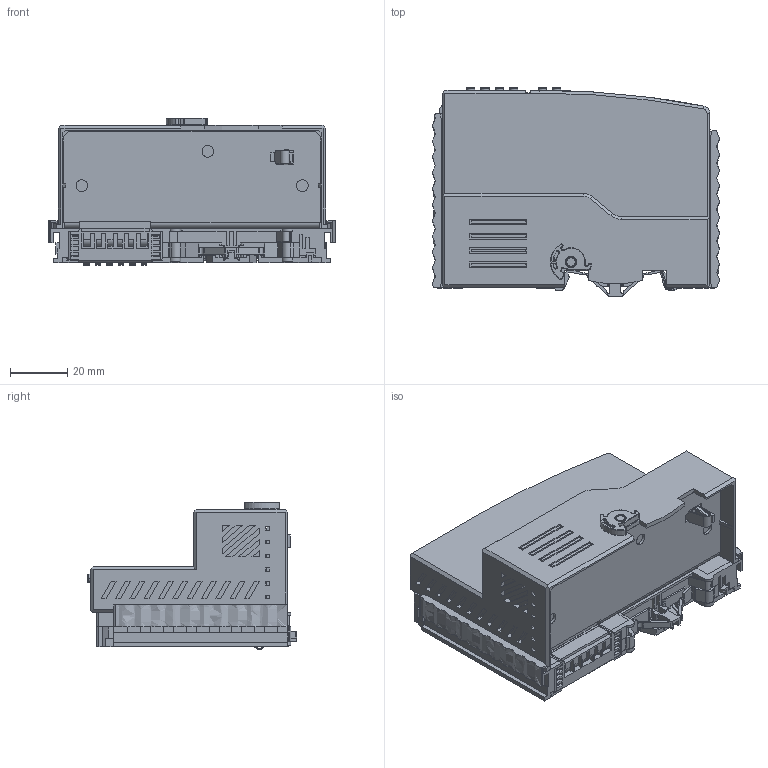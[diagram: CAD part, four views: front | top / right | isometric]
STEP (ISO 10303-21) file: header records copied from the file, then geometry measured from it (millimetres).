
FILE_DESCRIPTION((''),'2;1');
FILE_NAME('DF750--01_ASM','2019-09-30T',('Administrator'),(''),'PRO/ENGINEER BY PARAMETRIC TECHNOLOGY CORPORATION, 2010280','PRO/ENGINEER BY PARAMETRIC TECHNOLOGY CORPORATION, 2010280','');
FILE_SCHEMA(('CONFIG_CONTROL_DESIGN'));
Products named in the file (1): DF750--01_ASM
Bounding box: 100 x 73 x 51.46 mm (x, y, z)
Volume: 188956.2 mm3; surface area: 73395.7 mm2
Topology: 1 solids, 25 shells, 5532 faces, 16700 edges, 11143 vertices
Faces by surface type: plane 3302, cylinder 1496, cone 439, torus 221, bspline 44, sphere 28, extrusion 2
Entity records: 194199 total; most frequent: CARTESIAN_POINT 41085, ORIENTED_EDGE 33238, DIRECTION 31458, EDGE_CURVE 16670, VERTEX_POINT 11143, VECTOR 10864, LINE 10862, AXIS2_PLACEMENT_3D 10297
